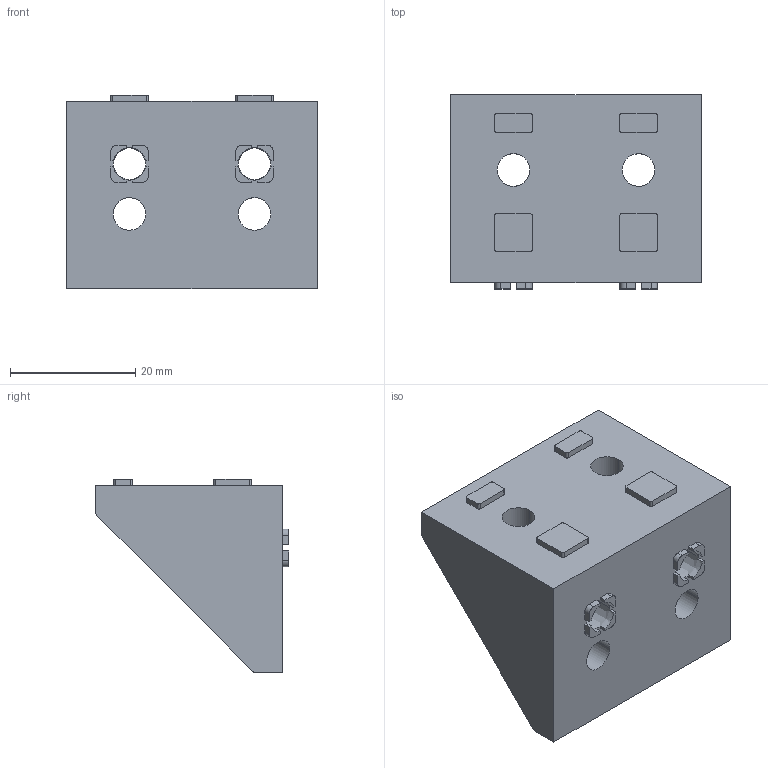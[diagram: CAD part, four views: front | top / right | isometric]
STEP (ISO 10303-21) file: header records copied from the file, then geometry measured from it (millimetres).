
FILE_DESCRIPTION(/* description */ (''),/* implementation_level */ '2;1');
FILE_NAME(/* name */ '10.optics-laser#10.1#HBLFSD5',/* time_stamp */ '2014-12-01T20:18:55+01:00',/* author */ (''),/* organization */ (''),/* preprocessor_version */ 'ST-DEVELOPER v14',/* originating_system */ '',/* authorisation */ '');
FILE_SCHEMA (('AUTOMOTIVE_DESIGN'));
Length unit declared in the file: millimetre
Products named in the file (1): Document
Bounding box: 40 x 31 x 31 mm (x, y, z)
Volume: 10702.6 mm3; surface area: 6893.6 mm2
Topology: 1 solids, 1 shells, 121 faces, 339 edges, 226 vertices
Faces by surface type: plane 80, bspline 41
Entity records: 7846 total; most frequent: CARTESIAN_POINT 3547, B_SPLINE_CURVE_WITH_KNOTS 691, ORIENTED_EDGE 678, PCURVE 678, DEFINITIONAL_REPRESENTATION 678, SURFACE_CURVE 339, EDGE_CURVE 339, VERTEX_POINT 226
